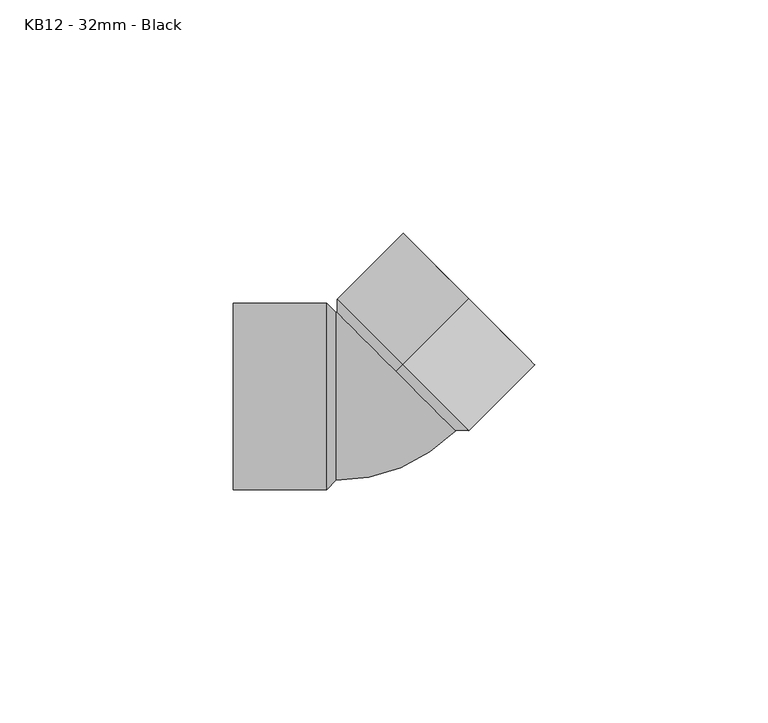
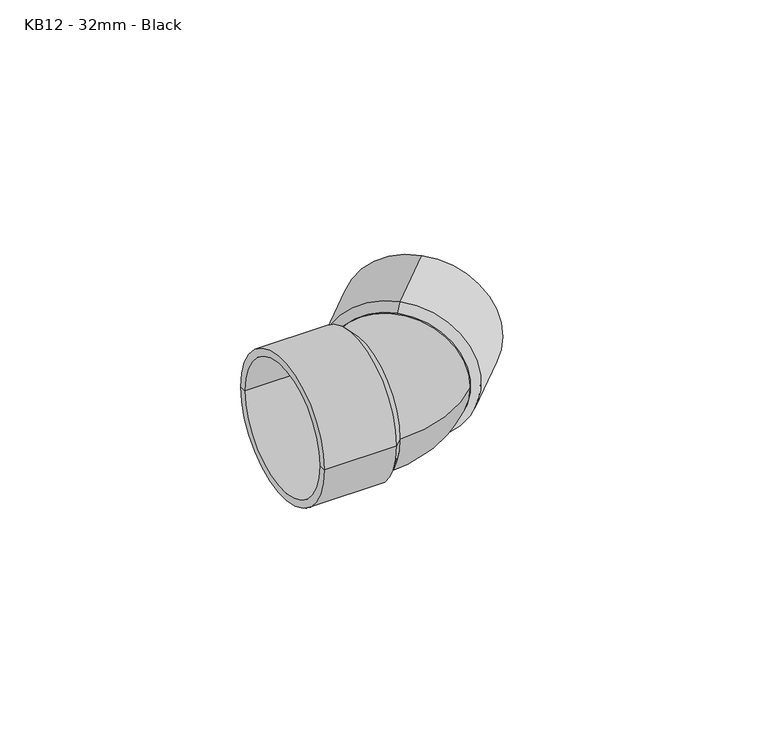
"""IFC4 building model written with IfcOpenShell, lengths in millimetres: pipe fitting geometry, MarleyPlumbingAndDrainage_PipeFitting_SolventBend45 : KB12 - 32mm - Black."""

from ifc_helpers import new_model, si_unit, point, frame, origin, place, context, project, spatial, polyline, circle_curve, ellipse_curve, trimmed, source, transform, mapped, element, save
from ifc_brep_helpers import plane_surface, cylinder_surface, revolved_surface, advanced_brep


def kb12_32mm_black_8cb6b957(model_context):
    return source(origin(), model_context, "Body", "AdvancedBrep", [
        advanced_brep(
        [(6.149507, 20.9162951, -18.0), (6.149507, 20.9162951, 18.0), (6.149507, 20.9162951, 20.0), (6.149507, 20.9162951, -20.0), (-7.9926286, 6.7741595, -18.0), (-7.9926286, 6.7741595, 18.0), (-7.9926286, 6.7741595, 0.0), (-9.4068422, 5.3599459, -18.0), (-9.4068422, 5.3599459, 18.0), (-9.4068422, 5.3599459, 0.0), (-7.9926286, 6.7741595, -20.0), (-7.9926286, 6.7741595, 20.0)],
        [
            (0, 1, circle_curve(frame((6.149507, 20.9162951, 0.0), z_axis=(-0.7071067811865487, -0.7071067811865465, 0.0), x_axis=(0.0, 0.0, 1.0)), 18.0)),
            (1, 2),
            (2, 3, circle_curve(frame((6.149507, 20.9162951, 0.0), z_axis=(0.7071067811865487, 0.7071067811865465, 0.0), x_axis=(0.0, 0.0, 1.0)), 20.0)),
            (3, 0),
            (1, 0, circle_curve(frame((6.149507, 20.9162951, 0.0), z_axis=(-0.7071067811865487, -0.7071067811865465, 0.0), x_axis=(0.0, 0.0, 1.0)), 18.0)),
            (3, 2, circle_curve(frame((6.149507, 20.9162951, 0.0), z_axis=(0.7071067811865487, 0.7071067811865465, 0.0), x_axis=(0.0, 0.0, 1.0)), 20.0)),
            (4, 5, circle_curve(frame((-7.9926286, 6.7741595, 0.0), z_axis=(-0.7071067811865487, -0.7071067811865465, 0.0), x_axis=(0.0, 0.0, 1.0)), 18.0)),
            (5, 1),
            (0, 4),
            (5, 4, circle_curve(frame((-7.9926286, 6.7741595, 0.0), z_axis=(-0.7071067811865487, -0.7071067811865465, 0.0), x_axis=(0.0, 0.0, 1.0)), 18.0)),
            (6, 5),
            (4, 6),
            (7, 8, circle_curve(frame((-9.4068422, 5.3599459, 0.0), z_axis=(-0.7071067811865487, -0.7071067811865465, 0.0), x_axis=(0.0, 0.0, 1.0)), 18.0)),
            (8, 9),
            (9, 7),
            (8, 7, circle_curve(frame((-9.4068422, 5.3599459, 0.0), z_axis=(-0.7071067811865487, -0.7071067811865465, 0.0), x_axis=(0.0, 0.0, 1.0)), 18.0)),
            (10, 11, circle_curve(frame((-7.9926286, 6.7741595, 0.0), z_axis=(-0.7071067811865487, -0.7071067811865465, 0.0), x_axis=(0.0, 0.0, 1.0)), 20.0)),
            (11, 8),
            (7, 10),
            (11, 10, circle_curve(frame((-7.9926286, 6.7741595, 0.0), z_axis=(-0.7071067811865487, -0.7071067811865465, 0.0), x_axis=(0.0, 0.0, 1.0)), 20.0)),
            (2, 11),
            (10, 3),
        ],
        [
            plane_surface(frame((6.149507, 20.9162951, 0.0), z_axis=(0.7071067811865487, 0.7071067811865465, 0.0), x_axis=(0.0, 0.0, 1.0))),
            revolved_surface(polyline([(6.149507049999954, 20.916295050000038, 18.0), (-7.99262855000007, 6.774159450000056, 18.0)]), (33.0075722, 47.7743602, 0.0), (0.7071067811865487, 0.7071067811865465, 0.0)),
            plane_surface(frame((-7.9926286, 6.7741595, 0.0), z_axis=(0.7071067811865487, 0.7071067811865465, 0.0), x_axis=(0.0, 0.0, 1.0))),
            plane_surface(frame((-9.4068422, 5.3599459, 0.0), z_axis=(-0.7071067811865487, -0.7071067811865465, 0.0), x_axis=(0.0, 0.0, 1.0))),
            revolved_surface(polyline([(-9.4068422, 5.3599459, 18.0), (-7.9926286, 6.7741595, 20.0)]), (33.0075722, 47.7743602, 0.0), (0.7071067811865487, 0.7071067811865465, 0.0)),
            cylinder_surface(frame((33.0075722, 47.7743602, 0.0), z_axis=(0.7071067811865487, 0.7071067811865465, 0.0), x_axis=(0.0, 0.0, 1.0)), 20.0),
        ],
        [
            (0, [[1, 2, 3, 4]]),
            (0, [[5, -4, 6, -2]]),
            (1, [[7, 8, -1, 9]]),
            (1, [[10, -9, -5, -8]]),
            (2, [[11, -7, 12]]),
            (2, [[-12, -10, -11]]),
            (3, [[13, 14, 15]]),
            (3, [[16, -15, -14]]),
            (4, [[17, 18, -13, 19]]),
            (4, [[20, -19, -16, -18]]),
            (5, [[-3, 21, -17, 22]]),
            (5, [[-6, -22, -20, -21]]),
        ],
    ),
        advanced_brep(
        [(-44.3468963, 18.0, 0.0), (-44.3468963, -18.0, 0.0), (-44.3468963, -20.0, 0.0), (-44.3468963, 20.0, 0.0), (-24.3468963, 18.0, 0.0), (-24.3468963, -18.0, 0.0), (-24.3468963, 0.0, 0.0), (-22.3468963, 18.0, 0.0), (-22.3468963, -18.0, 0.0), (-22.3468963, 0.0, 0.0), (-24.3468963, 20.0, 0.0), (-24.3468963, -20.0, 0.0)],
        [
            (0, 1, circle_curve(frame((-44.3468963, 0.0, 0.0), z_axis=(1.0, 0.0, 0.0), x_axis=(0.0, -1.0, 0.0)), 18.0)),
            (1, 2),
            (2, 3, circle_curve(frame((-44.3468963, 0.0, 0.0), z_axis=(-1.0, 0.0, 0.0), x_axis=(0.0, -1.0, 0.0)), 20.0)),
            (3, 0),
            (1, 0, circle_curve(frame((-44.3468963, 0.0, 0.0), z_axis=(1.0, 0.0, 0.0), x_axis=(0.0, -1.0, 0.0)), 18.0)),
            (3, 2, circle_curve(frame((-44.3468963, 0.0, 0.0), z_axis=(-1.0, 0.0, 0.0), x_axis=(0.0, -1.0, 0.0)), 20.0)),
            (4, 5, circle_curve(frame((-24.3468963, 0.0, 0.0), z_axis=(1.0, 0.0, 0.0), x_axis=(0.0, -1.0, 0.0)), 18.0)),
            (5, 1),
            (0, 4),
            (5, 4, circle_curve(frame((-24.3468963, 0.0, 0.0), z_axis=(1.0, 0.0, 0.0), x_axis=(0.0, -1.0, 0.0)), 18.0)),
            (6, 5),
            (4, 6),
            (7, 8, circle_curve(frame((-22.3468963, 0.0, 0.0), z_axis=(1.0, 0.0, 0.0), x_axis=(0.0, -1.0, 0.0)), 18.0)),
            (8, 9),
            (9, 7),
            (8, 7, circle_curve(frame((-22.3468963, 0.0, 0.0), z_axis=(1.0, 0.0, 0.0), x_axis=(0.0, -1.0, 0.0)), 18.0)),
            (10, 11, circle_curve(frame((-24.3468963, 0.0, 0.0), z_axis=(1.0, 0.0, 0.0), x_axis=(0.0, -1.0, 0.0)), 20.0)),
            (11, 8),
            (7, 10),
            (11, 10, circle_curve(frame((-24.3468963, 0.0, 0.0), z_axis=(1.0, 0.0, 0.0), x_axis=(0.0, -1.0, 0.0)), 20.0)),
            (2, 11),
            (10, 3),
        ],
        [
            plane_surface(frame((-44.3468963, 0.0, 0.0), z_axis=(-1.0, 0.0, 0.0), x_axis=(0.0, -1.0, 0.0))),
            revolved_surface(polyline([(-44.3468963, -18.0, 0.0), (-24.346896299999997, -18.0, 0.0)]), (-82.3299362, 0.0, 0.0), (-1.0, 0.0, 0.0)),
            plane_surface(frame((-24.3468963, 0.0, 0.0), z_axis=(-1.0, 0.0, 0.0), x_axis=(0.0, -1.0, 0.0))),
            plane_surface(frame((-22.3468963, 0.0, 0.0), z_axis=(1.0, 0.0, 0.0), x_axis=(0.0, -1.0, 0.0))),
            revolved_surface(polyline([(-22.3468963, -18.0, 0.0), (-24.3468963, -20.0, 0.0)]), (-82.3299362, 0.0, 0.0), (-1.0, 0.0, 0.0)),
            cylinder_surface(frame((-82.3299362, 0.0, 0.0), z_axis=(-1.0, 0.0, 0.0), x_axis=(0.0, -1.0, 0.0)), 20.0),
        ],
        [
            (0, [[1, 2, 3, 4]]),
            (0, [[5, -4, 6, -2]]),
            (1, [[7, 8, -1, 9]]),
            (1, [[10, -9, -5, -8]]),
            (2, [[11, -7, 12]]),
            (2, [[-12, -10, -11]]),
            (3, [[13, 14, 15]]),
            (3, [[16, -15, -14]]),
            (4, [[17, 18, -13, 19]]),
            (4, [[20, -19, -16, -18]]),
            (5, [[-3, 21, -17, 22]]),
            (5, [[-6, -22, -20, -21]]),
        ],
    ),
        advanced_brep(
        [(-22.3468963, -18.0, 0.0), (-22.3468963, 18.0, 0.0), (3.3210799, -7.3679762, 0.0), (-22.1347642, 18.087868, 0.0)],
        [
            (0, 1, circle_curve(frame((-22.3468963, 0.0, 0.0), z_axis=(-1.0, 0.0, 0.0), x_axis=(0.0, 1.0, 0.0)), 18.0)),
            (1, 0, circle_curve(frame((-22.3468963, 0.0, 0.0), z_axis=(-1.0, 0.0, 0.0), x_axis=(0.0, 1.0, 0.0)), 18.0)),
            (2, 3, circle_curve(frame((-9.4068422, 5.3599459, 0.0), z_axis=(0.707106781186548, 0.707106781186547, 0.0), x_axis=(-0.707106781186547, 0.707106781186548, 0.0)), 18.0)),
            (3, 2, circle_curve(frame((-9.4068422, 5.3599459, 0.0), z_axis=(0.707106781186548, 0.707106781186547, 0.0), x_axis=(-0.707106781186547, 0.707106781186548, 0.0)), 18.0)),
            (3, 1, circle_curve(frame((-22.3468963, 18.3, 0.0), z_axis=(0.0, 0.0, -1.0), x_axis=(0.0, -1.0, 0.0)), 0.3)),
            (0, 2, circle_curve(frame((-22.3468963, 18.3, 0.0), z_axis=(0.0, 0.0, 1.0), x_axis=(0.0, -1.0, 0.0)), 36.3)),
        ],
        [
            plane_surface(frame((-22.3468963, 0.0, 0.0), z_axis=(-1.0, 0.0, 0.0), x_axis=(0.0, 0.0, 1.0))),
            plane_surface(frame((-9.4068422, 5.3599459, 0.0), z_axis=(0.7071067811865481, 0.707106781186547, 0.0), x_axis=(0.0, 0.0, 1.0))),
            revolved_surface(trimmed(ellipse_curve(frame((-22.3468963, 0.0, 0.0), z_axis=(-1.0, 0.0, 0.0), x_axis=(0.0, 1.0, 0.0)), 18.0, 18.0), [point((-22.3468963, -18.0, 0.0))], [point((-22.3468963, 18.0, 0.0))], True, "CARTESIAN"), (-22.3468963, 18.3, 0.0), (0.0, 0.0, 1.0)),
            revolved_surface(trimmed(ellipse_curve(frame((-22.3468963, 0.0, 0.0), z_axis=(-1.0, 0.0, 0.0), x_axis=(0.0, 1.0, 0.0)), 18.0, 18.0), [point((-22.3468963, 18.0, 0.0))], [point((-22.3468963, -18.0, 0.0))], True, "CARTESIAN"), (-22.3468963, 18.3, 0.0), (0.0, 0.0, 1.0)),
        ],
        [
            (0, [[1, 2]]),
            (1, [[3, 4]]),
            (2, [[5, -1, 6, -4]]),
            (3, [[-6, -2, -5, -3]]),
        ],
    ),
    ])


if __name__ == "__main__":
    model = new_model("IFC4")
    model_context = context("Model", 3, world=origin())
    ifc_project = project(units=[si_unit("LENGTHUNIT", "METRE", prefix="MILLI")], contexts=[model_context])
    site = spatial("IfcSite", under=ifc_project)
    building = spatial("IfcBuilding", under=site)
    placement = place(None, origin())
    kb12_32mm_black_shape = kb12_32mm_black_8cb6b957(model_context)
    element("IfcPipeFitting", 1, ObjectType="MarleyPlumbingAndDrainage_PipeFitting_SolventBend45 : KB12 - 32mm - Black", at=placement, inside=building, context=model_context, shape_type="MappedRepresentation", body=[
        mapped(kb12_32mm_black_shape, transform((0.0, 0.0, 0.0), x_axis=(1.0, 0.0, 0.0), y_axis=(0.0, 1.0, 0.0), z_axis=(0.0, 0.0, 1.0))),
    ])
    save(model, "model.ifc")
